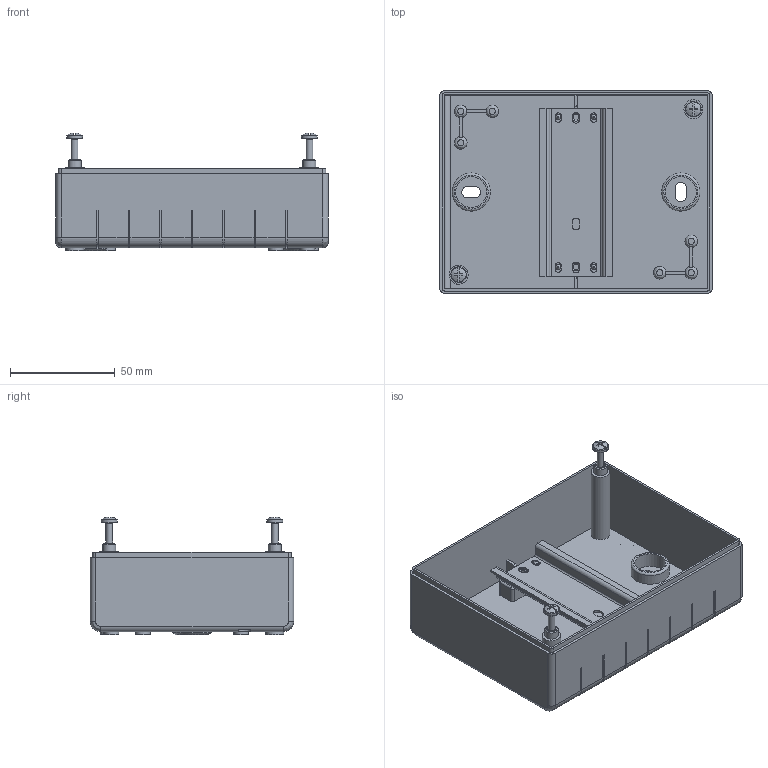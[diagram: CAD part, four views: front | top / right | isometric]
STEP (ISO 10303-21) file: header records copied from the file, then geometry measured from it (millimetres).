
FILE_DESCRIPTION(/* description */ (''),/* implementation_level */ '2;1');
FILE_NAME(/* name */ '4003645.stp',/* time_stamp */ '2019-03-01T11:47:41+01:00',/* author */ (''),/* organization */ (''),/* preprocessor_version */ 'ST-DEVELOPER v16.7',/* originating_system */ 'SIEMENS PLM Software NX 12.0',/* authorisation */ '');
FILE_SCHEMA (('AUTOMOTIVE_DESIGN { 1 0 10303 214 3 1 1 1 }'));
Length unit declared in the file: millimetre
Products named in the file (1): bsom23CC53FBp5dp
Bounding box: 130 x 97 x 56.21 mm (x, y, z)
Volume: 66488.3 mm3; surface area: 75464.6 mm2
Topology: 4 solids, 4 shells, 459 faces, 1199 edges, 791 vertices
Faces by surface type: plane 263, cylinder 151, bspline 22, cone 12, torus 11
Full cylindrical faces by diameter (mm): 2.4 x6, 2.5 x4, 2.8 x4, 3.2 x2, 3.7 x2, 4 x2, 5.6 x2, 6.3 x2, 7 x6, 7.5 x2, 8.6 x2, 9 x2, 14.8 x2, 18.2 x4
Entity records: 14030 total; most frequent: CARTESIAN_POINT 3015, DIRECTION 2278, ORIENTED_EDGE 2186, EDGE_CURVE 1093, AXIS2_PLACEMENT_3D 796, VERTEX_POINT 751, LINE 686, VECTOR 686
